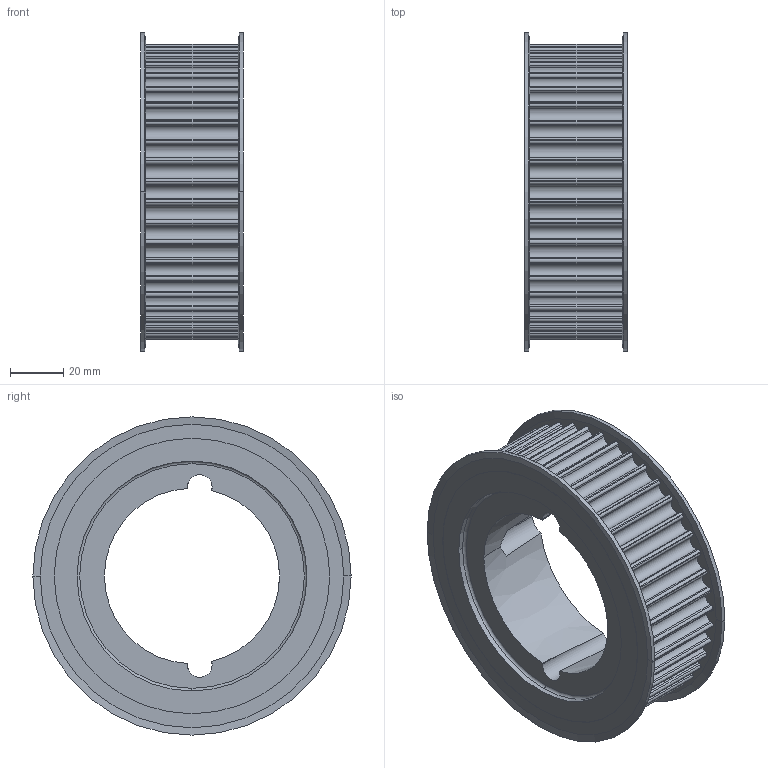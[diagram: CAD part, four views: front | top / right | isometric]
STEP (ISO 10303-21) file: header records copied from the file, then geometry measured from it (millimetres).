
FILE_DESCRIPTION( ( '' ), '1' );
FILE_NAME( 'C:/Users/Stangenbergd/Documents/CAD_Step/1/17477222.stp', '2021-10-19T10:18:28', ( '' ), ( '' ), ' ', ' ', ' ' );
FILE_SCHEMA( ( 'CONFIG_CONTROL_DESIGN' ) );
Length unit declared in the file: millimetre
Products named in the file (1): 1
Bounding box: 38.47 x 119 x 119 mm (x, y, z)
Volume: 191411.7 mm3; surface area: 47000.1 mm2
Topology: 1 solids, 1 shells, 310 faces, 898 edges, 596 vertices
Faces by surface type: cylinder 196, plane 96, cone 14, torus 4
Entity records: 10560 total; most frequent: CARTESIAN_POINT 1945, DIRECTION 1926, ORIENTED_EDGE 1796, EDGE_CURVE 898, AXIS2_PLACEMENT_3D 729, VERTEX_POINT 596, LINE 468, VECTOR 468
